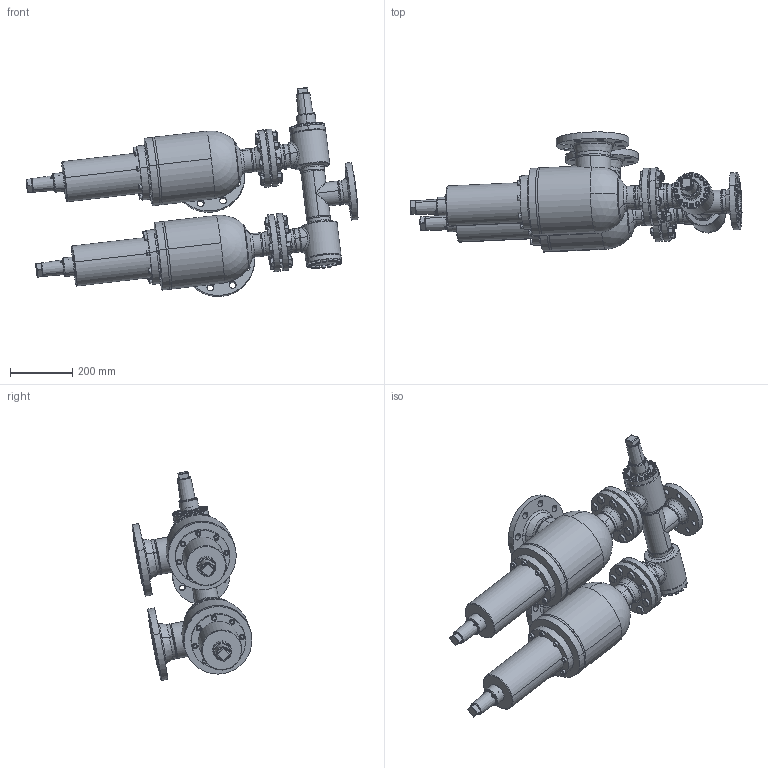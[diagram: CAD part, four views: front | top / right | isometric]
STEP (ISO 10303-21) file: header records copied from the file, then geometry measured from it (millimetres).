
FILE_DESCRIPTION (( 'STEP AP214' ), '1' );
FILE_NAME ('WVB-SVUA_165FL_DN65_DIN-FL_seitlich.STEP', '2010-09-10T05:44:40', ( 'Eckhard Grams' ), ( 'AWP Kälte Klima Armaturen GmbH' ), 'SwSTEP 2.0', 'SolidWorks 2002296', '' );
FILE_SCHEMA (( 'AUTOMOTIVE_DESIGN' ));
Length unit declared in the file: millimetre
Products named in the file (38): WVB-SVUA_165FL_DN65_DIN-FL_seitlich; SVUA44400C17-DN65-(100)_DIN-FL_Standard; Loser-FL44200-17-DN65-SVU_PS25_Standard; Flach-Dichtring44331-20-65_DN 65; Haube44331-17-DN65_kpl-lt-ZG_Standard; Geh,kpl 44331-17-DN65-(100)_DIN-FL-N_Standard; bead44331-17-Flana-E_Standard; bead44331-17-Flana-A_Standard; Geh,kpl 44331-17-DN65-(100)_R1_PS25_Standard; Rohrstutzen-A44331-17-DN65-(100)_R1_SVU; Kopfstück44331-17-DN65_Standard; Geh44331-17-DN65_R1_DN65-100; bead44331-17-Sitzst-Geh_Standard; bead44331-17-Gehkpl1_Standard; Sitzstutzen44331-17-DN65_kpl-im-geh_Standard; Flansch-DIN2635-Nut_PS40_DIN-Flansch-DN100_PS40-Nut; geteilter Ring4433-17-DN65_PS25_Standard; Zylinderschraube-DIN912_M10x 35; WVB23020D17-DN065_DIN-FL-N-F_PS40_Standard; Kappe 16402-15_DN40-65 (M52x3)_Standard; WVB-R23000K17_Deck+Schr-DN65_Standard; Deckel23000K17-DN65_Standard; Geh,kpl23020E17-DN065_DIN-FL-N-F_PS40_Standard; Geh,kpl23000E17-DN065_R1_PS40_Standard; bead23000-17-2_Standard; bead23000-17-1_Standard; T-Stück DIN2615_DN 65; Gehäuse23000E17-DN065_R1_PS40_Standard; Flansch-DIN2635-Nut_PS40_DIN-Flansch-DN065_PS40-Nut; bead23020-17-3_Standard; bead23020-17-2_Standard; bead23020-17-1_Standard; Flansch-DIN2635-Feder_PS40_DIN-Flansch-DN065_PS40-Feder; AVB16300K17_Deck+Schr-DN65_Standard; Deckel16300K17-DN65_Standard; Zylinderschraube-DIN912_M 8x  25; Sechskantschraube-DIN933_M16x 60; Sechskantmutter-DIN934_M16
Assembly tree (110 placements, depth 5):
  WVB-SVUA_165FL_DN65_DIN-FL_seitlich
    Sechskantmutter-DIN934_M16  x16
    Sechskantschraube-DIN933_M16x 60  x16
    SVUA44400C17-DN65-(100)_DIN-FL_Standard  x2
      Zylinderschraube-DIN912_M10x 35
      Kappe 16402-15_DN40-65 (M52x3)_Standard
      geteilter Ring4433-17-DN65_PS25_Standard
      Geh,kpl 44331-17-DN65-(100)_DIN-FL-N_Standard
        bead44331-17-Flana-E_Standard
        Geh,kpl 44331-17-DN65-(100)_R1_PS25_Standard
          Kopfstück44331-17-DN65_Standard
          Geh44331-17-DN65_R1_DN65-100
          bead44331-17-Sitzst-Geh_Standard
          bead44331-17-Gehkpl1_Standard
          Sitzstutzen44331-17-DN65_kpl-im-geh_Standard
          Rohrstutzen-A44331-17-DN65-(100)_R1_SVU
        Flansch-DIN2635-Nut_PS40_DIN-Flansch-DN100_PS40-Nut
        Flansch-DIN2635-Nut_PS40_DIN-Flansch-DN065_PS40-Nut
        bead44331-17-Flana-A_Standard
      Flach-Dichtring44331-20-65_DN 65
      Haube44331-17-DN65_kpl-lt-ZG_Standard
      Loser-FL44200-17-DN65-SVU_PS25_Standard
    WVB23020D17-DN065_DIN-FL-N-F_PS40_Standard
      Kappe 16402-15_DN40-65 (M52x3)_Standard
      AVB16300K17_Deck+Schr-DN65_Standard
        Zylinderschraube-DIN912_M 8x  25  x16
        Deckel16300K17-DN65_Standard
      WVB-R23000K17_Deck+Schr-DN65_Standard
        Zylinderschraube-DIN912_M 8x  25  x16
        Deckel23000K17-DN65_Standard
      Geh,kpl23020E17-DN065_DIN-FL-N-F_PS40_Standard
        Flansch-DIN2635-Feder_PS40_DIN-Flansch-DN065_PS40-Feder  x2
        Geh,kpl23000E17-DN065_R1_PS40_Standard
          Gehäuse23000E17-DN065_R1_PS40_Standard  x2
          bead23000-17-1_Standard
          T-Stück DIN2615_DN 65
          bead23000-17-2_Standard
        Flansch-DIN2635-Nut_PS40_DIN-Flansch-DN065_PS40-Nut
        bead23020-17-3_Standard
        bead23020-17-2_Standard
        bead23020-17-1_Standard
Bounding box: 1069.58 x 386.52 x 673.31 mm (x, y, z)
Volume: 12784482.3 mm3; surface area: 3042379.2 mm2
Topology: 126 solids, 126 shells, 2891 faces, 6563 edges, 4011 vertices
Faces by surface type: plane 955, cylinder 878, cone 783, torus 177, bspline 88, sphere 10
Entity records: 55822 total; most frequent: CARTESIAN_POINT 35395, DIRECTION 3986, ORIENTED_EDGE 3524, EDGE_CURVE 1762, AXIS2_PLACEMENT_3D 1704, VERTEX_POINT 1094, EDGE_LOOP 944, CIRCLE 888
